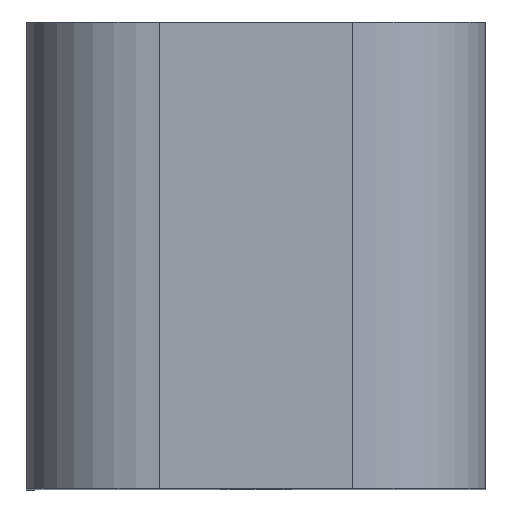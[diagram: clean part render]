
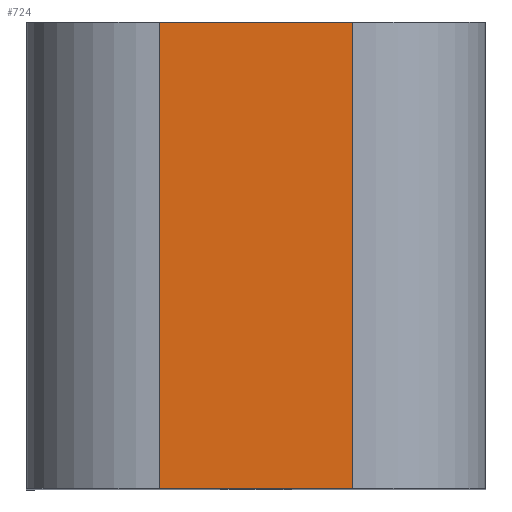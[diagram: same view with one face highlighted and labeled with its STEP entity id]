
A CAD part, top view. The second image highlights one B-rep face of the part: STEP entity #724.
In plain terms, the highlighted planar face has unit normal (0, 0, 1).
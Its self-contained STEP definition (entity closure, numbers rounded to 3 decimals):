
#59 = AXIS2_PLACEMENT_3D ( 'NONE', #658, #661, #662 ) ;
#70 = LINE ( 'NONE', #561, #335 ) ;
#84 = EDGE_CURVE ( 'NONE', #420, #414, #270, .T. ) ;
#97 = EDGE_CURVE ( 'NONE', #414, #418, #70, .T. ) ;
#98 = EDGE_CURVE ( 'NONE', #420, #421, #336, .T. ) ;
#101 = EDGE_CURVE ( 'NONE', #421, #418, #342, .T. ) ;
#153 = VECTOR ( 'NONE', #529, 1000. ) ;
#167 = ORIENTED_EDGE ( 'NONE', *, *, #98, .F. ) ;
#169 = ORIENTED_EDGE ( 'NONE', *, *, #97, .T. ) ;
#190 = EDGE_LOOP ( 'NONE', ( #169, #251, #167, #209 ) ) ;
#209 = ORIENTED_EDGE ( 'NONE', *, *, #84, .T. ) ;
#251 = ORIENTED_EDGE ( 'NONE', *, *, #101, .F. ) ;
#270 = LINE ( 'NONE', #525, #153 ) ;
#335 = VECTOR ( 'NONE', #562, 1000. ) ;
#336 = LINE ( 'NONE', #563, #337 ) ;
#337 = VECTOR ( 'NONE', #564, 1000. ) ;
#342 = LINE ( 'NONE', #570, #343 ) ;
#343 = VECTOR ( 'NONE', #571, 1000. ) ;
#370 = FACE_OUTER_BOUND ( 'NONE', #190, .T. ) ;
#414 = VERTEX_POINT ( 'NONE', #586 ) ;
#418 = VERTEX_POINT ( 'NONE', #590 ) ;
#420 = VERTEX_POINT ( 'NONE', #592 ) ;
#421 = VERTEX_POINT ( 'NONE', #593 ) ;
#525 = CARTESIAN_POINT ( 'NONE',  ( -2.9, 14., 10.5 ) ) ;
#529 = DIRECTION ( 'NONE',  ( 0., -1., 0. ) ) ;
#561 = CARTESIAN_POINT ( 'NONE',  ( 2.9, 0., 10.5 ) ) ;
#562 = DIRECTION ( 'NONE',  ( 1., 0., 0. ) ) ;
#563 = CARTESIAN_POINT ( 'NONE',  ( 2.9, 14., 10.5 ) ) ;
#564 = DIRECTION ( 'NONE',  ( 1., 0., 0. ) ) ;
#570 = CARTESIAN_POINT ( 'NONE',  ( 2.9, 14., 10.5 ) ) ;
#571 = DIRECTION ( 'NONE',  ( 0., -1., 0. ) ) ;
#586 = CARTESIAN_POINT ( 'NONE',  ( -2.9, 0., 10.5 ) ) ;
#590 = CARTESIAN_POINT ( 'NONE',  ( 2.9, 0., 10.5 ) ) ;
#592 = CARTESIAN_POINT ( 'NONE',  ( -2.9, 14., 10.5 ) ) ;
#593 = CARTESIAN_POINT ( 'NONE',  ( 2.9, 14., 10.5 ) ) ;
#658 = CARTESIAN_POINT ( 'NONE',  ( 2.9, 14., 10.5 ) ) ;
#659 = PLANE ( 'NONE',  #59 ) ;
#661 = DIRECTION ( 'NONE',  ( 0., 0., -1. ) ) ;
#662 = DIRECTION ( 'NONE',  ( -1., 0., 0. ) ) ;
#724 = ADVANCED_FACE ( 'NONE', ( #370 ), #659, .F. ) ;
